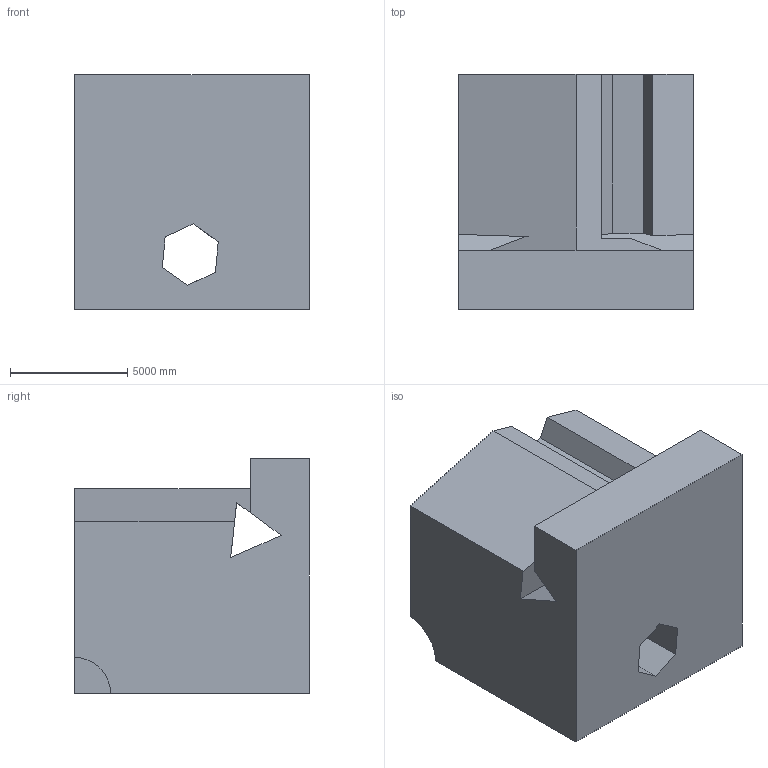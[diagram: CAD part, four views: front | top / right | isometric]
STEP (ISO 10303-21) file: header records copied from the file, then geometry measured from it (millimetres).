
FILE_DESCRIPTION (( 'STEP AP203' ), '1' );
FILE_NAME ('1671.STEP', '2022-08-19T11:34:35', ( 'user' ), ( '' ), 'SwSTEP 2.0', 'SolidWorks 2021', '' );
FILE_SCHEMA (( 'CONFIG_CONTROL_DESIGN' ));
Length unit declared in the file: centimetre
Products named in the file (1): 1671
Bounding box: 10000 x 10000 x 10000 mm (x, y, z)
Volume: 738735328024.9 mm3; surface area: 726646271.5 mm2
Topology: 1 solids, 1 shells, 35 faces, 105 edges, 70 vertices
Faces by surface type: plane 30, cylinder 5
Entity records: 1254 total; most frequent: CARTESIAN_POINT 211, ORIENTED_EDGE 210, DIRECTION 187, EDGE_CURVE 105, VECTOR 95, LINE 95, VERTEX_POINT 70, AXIS2_PLACEMENT_3D 46
